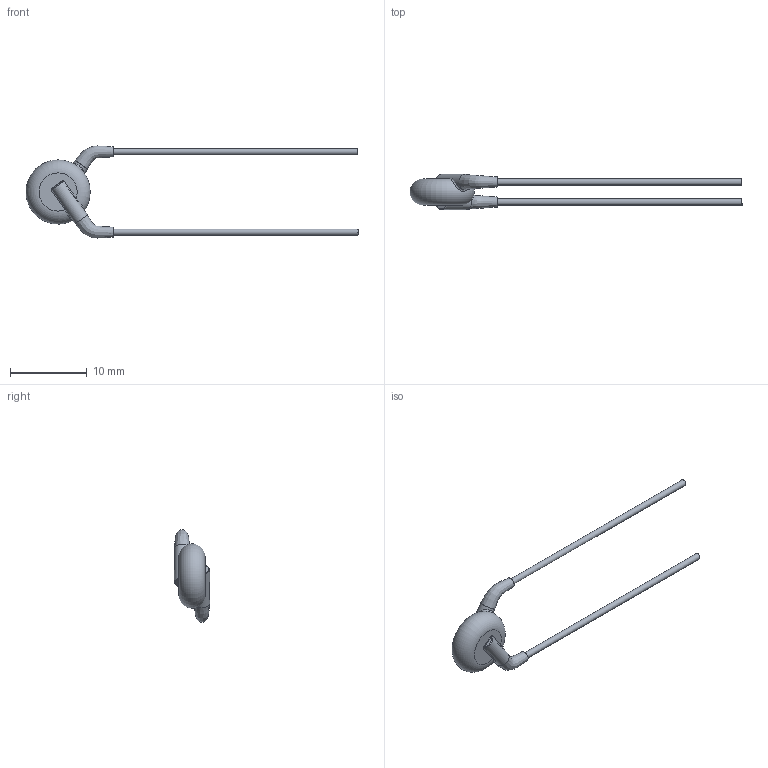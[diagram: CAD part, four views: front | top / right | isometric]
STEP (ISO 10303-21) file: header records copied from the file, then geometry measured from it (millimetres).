
FILE_DESCRIPTION(/* description */ (''),/* implementation_level */ '2;1');
FILE_NAME(/* name */ 'I:\Marketing\M6t1\3D-Models\Zchng-Werk-3\Upload for homepage\Ceramite\R3L\440LQ47-R\440LQ47-R.stp',/* time_stamp */ '2016-11-10T13:39:34+01:00',/* author */ ('sheinrich'),/* organization */ (''),/* preprocessor_version */ 'ST-DEVELOPER v16.1',/* originating_system */ 'Autodesk Inventor 2016',/* authorisation */ '');
FILE_SCHEMA (('AUTOMOTIVE_DESIGN { 1 0 10303 214 3 1 1 }'));
Length unit declared in the file: millimetre
Products named in the file (1): 440LQ47-R
Bounding box: 43.4 x 4.6 x 12.03 mm (x, y, z)
Volume: 226.8 mm3; surface area: 388.4 mm2
Topology: 1 solids, 1 shells, 37 faces, 80 edges, 43 vertices
Faces by surface type: bspline 12, cylinder 10, plane 8, torus 7
Full cylindrical faces by diameter (mm): 0.81 x2, 2 x2
Entity records: 1924 total; most frequent: CARTESIAN_POINT 1173, ORIENTED_EDGE 136, DIRECTION 128, EDGE_CURVE 68, AXIS2_PLACEMENT_3D 58, EDGE_LOOP 44, VERTEX_POINT 40, STYLED_ITEM 38
